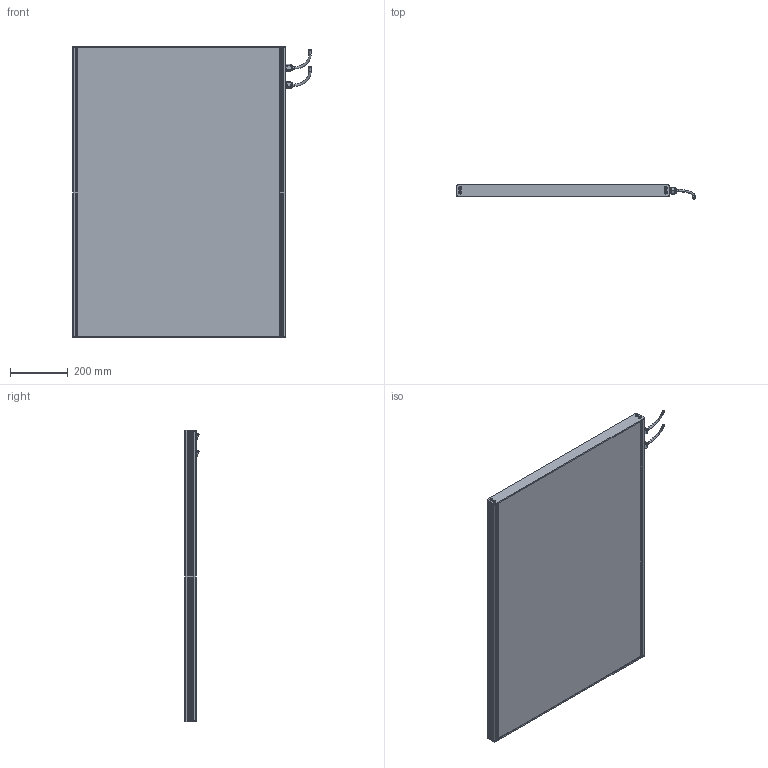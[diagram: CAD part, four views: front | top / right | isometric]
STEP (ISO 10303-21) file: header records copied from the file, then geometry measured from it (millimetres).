
FILE_DESCRIPTION (( 'STEP AP214' ), '1' );
FILE_NAME ('EFFI-BL-700-1000T-2M12P.STEP', '2021-07-02T10:37:25', ( '' ), ( '' ), 'SwSTEP 2.0', 'SolidWorks 2021', '' );
FILE_SCHEMA (( 'AUTOMOTIVE_DESIGN' ));
Length unit declared in the file: millimetre
Products named in the file (7): Pièce2^EFFI-BL-XXX-YYYT + 2 M12P; EFFI-BL-700-1000T-2M12P; 003776; profile modif_lg 99.5 mm; M12 power; bord fin modif_lg 436.5 mm
Assembly tree (15 placements, depth 2):
  EFFI-BL-700-1000T-2M12P
    bord fin modif_lg 436.5 mm  x2
    profile modif_lg 99.5 mm
    Pièce2^EFFI-BL-XXX-YYYT + 2 M12P
    profile modif_lg 99.5 mm
    M12 power  x2
    003776  x8
Bounding box: 826.45 x 49.72 x 1010 mm (x, y, z)
Volume: 25653481.9 mm3; surface area: 1952665.7 mm2
Topology: 13 solids, 19 shells, 625 faces, 1582 edges, 1014 vertices
Faces by surface type: plane 360, bspline 125, cylinder 112, cone 20, torus 8
Entity records: 15910 total; most frequent: CARTESIAN_POINT 5250, ORIENTED_EDGE 2128, DIRECTION 1806, EDGE_CURVE 1066, LINE 780, VECTOR 780, VERTEX_POINT 703, AXIS2_PLACEMENT_3D 513
